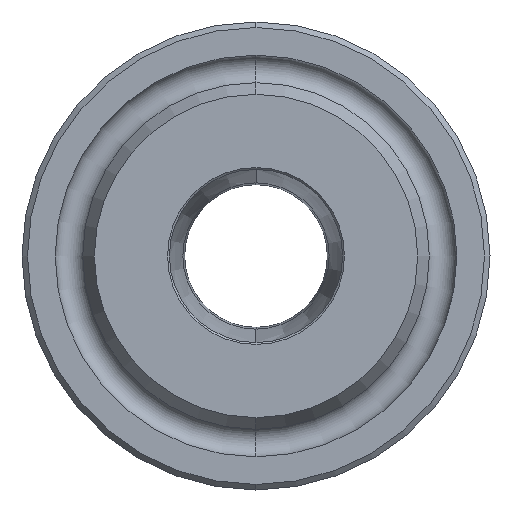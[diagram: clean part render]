
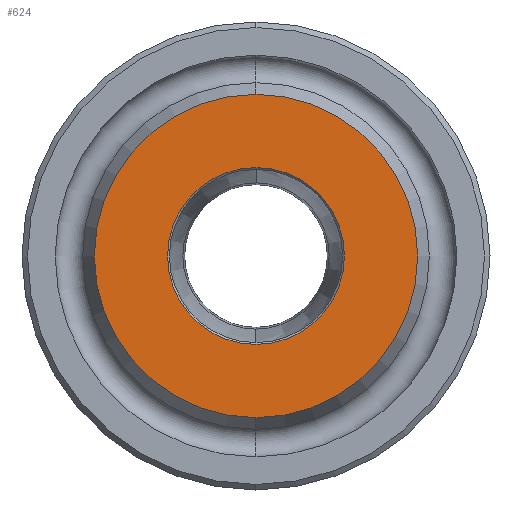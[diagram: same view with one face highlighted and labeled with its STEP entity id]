
A CAD part, left-side view. The second image highlights one B-rep face of the part: STEP entity #624.
In plain terms, the highlighted planar face has unit normal (-1, 0, 0).
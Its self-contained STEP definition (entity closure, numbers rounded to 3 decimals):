
#7 = EDGE_CURVE ( 'NONE', #1260, #1062, #42, .T. ) ;
#42 = CIRCLE ( 'NONE', #1393, 4.8 ) ;
#90 = ORIENTED_EDGE ( 'NONE', *, *, #341, .T. ) ;
#121 = ORIENTED_EDGE ( 'NONE', *, *, #782, .F. ) ;
#181 = CIRCLE ( 'NONE', #1040, 8.772 ) ;
#246 = AXIS2_PLACEMENT_3D ( 'NONE', #1045, #1071, #1158 ) ;
#324 = CARTESIAN_POINT ( 'NONE',  ( -35.712, 0., 0. ) ) ;
#329 = CARTESIAN_POINT ( 'NONE',  ( -35.712, 0., 0. ) ) ;
#341 = EDGE_CURVE ( 'NONE', #1063, #1437, #181, .T. ) ;
#418 = CARTESIAN_POINT ( 'NONE',  ( -35.712, 0., -4.8 ) ) ;
#442 = DIRECTION ( 'NONE',  ( 0., 0., 1. ) ) ;
#479 = DIRECTION ( 'NONE',  ( 0., 0., 1. ) ) ;
#538 = DIRECTION ( 'NONE',  ( -1., 0., 0. ) ) ;
#590 = EDGE_LOOP ( 'NONE', ( #90, #979 ) ) ;
#624 = ADVANCED_FACE ( 'NONE', ( #730, #1304 ), #1060, .T. ) ;
#652 = CIRCLE ( 'NONE', #845, 8.772 ) ;
#716 = EDGE_CURVE ( 'NONE', #1437, #1063, #652, .T. ) ;
#730 = FACE_OUTER_BOUND ( 'NONE', #590, .T. ) ;
#782 = EDGE_CURVE ( 'NONE', #1062, #1260, #1160, .T. ) ;
#816 = CARTESIAN_POINT ( 'NONE',  ( -35.712, 0., 4.8 ) ) ;
#821 = CARTESIAN_POINT ( 'NONE',  ( -35.712, 0., -8.772 ) ) ;
#845 = AXIS2_PLACEMENT_3D ( 'NONE', #1029, #1355, #479 ) ;
#856 = DIRECTION ( 'NONE',  ( 0., 0., 1. ) ) ;
#979 = ORIENTED_EDGE ( 'NONE', *, *, #716, .T. ) ;
#1029 = CARTESIAN_POINT ( 'NONE',  ( -35.712, 0., 0. ) ) ;
#1040 = AXIS2_PLACEMENT_3D ( 'NONE', #324, #538, #856 ) ;
#1045 = CARTESIAN_POINT ( 'NONE',  ( -35.712, 8.772, 0. ) ) ;
#1060 = PLANE ( 'NONE',  #246 ) ;
#1062 = VERTEX_POINT ( 'NONE', #816 ) ;
#1063 = VERTEX_POINT ( 'NONE', #821 ) ;
#1071 = DIRECTION ( 'NONE',  ( -1., 0., 0. ) ) ;
#1078 = ORIENTED_EDGE ( 'NONE', *, *, #7, .F. ) ;
#1097 = CARTESIAN_POINT ( 'NONE',  ( -35.712, 0., 0. ) ) ;
#1158 = DIRECTION ( 'NONE',  ( 0., 0., 1. ) ) ;
#1160 = CIRCLE ( 'NONE', #1209, 4.8 ) ;
#1161 = CARTESIAN_POINT ( 'NONE',  ( -35.712, 0., 8.772 ) ) ;
#1187 = DIRECTION ( 'NONE',  ( -1., 0., 0. ) ) ;
#1197 = DIRECTION ( 'NONE',  ( -1., 0., 0. ) ) ;
#1208 = DIRECTION ( 'NONE',  ( 0., 0., 1. ) ) ;
#1209 = AXIS2_PLACEMENT_3D ( 'NONE', #329, #1197, #442 ) ;
#1248 = EDGE_LOOP ( 'NONE', ( #121, #1078 ) ) ;
#1260 = VERTEX_POINT ( 'NONE', #418 ) ;
#1304 = FACE_BOUND ( 'NONE', #1248, .T. ) ;
#1355 = DIRECTION ( 'NONE',  ( -1., 0., 0. ) ) ;
#1393 = AXIS2_PLACEMENT_3D ( 'NONE', #1097, #1187, #1208 ) ;
#1437 = VERTEX_POINT ( 'NONE', #1161 ) ;
